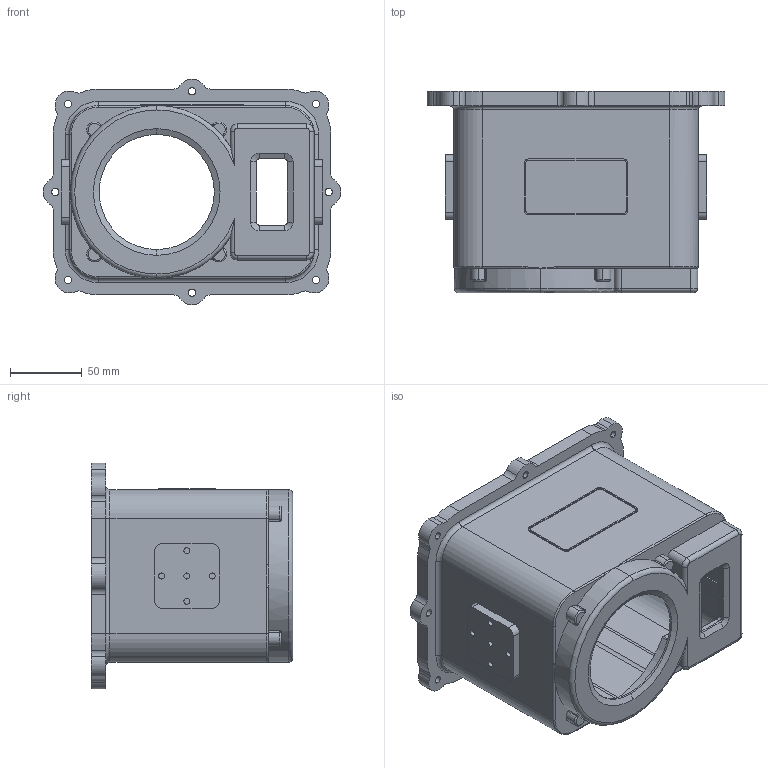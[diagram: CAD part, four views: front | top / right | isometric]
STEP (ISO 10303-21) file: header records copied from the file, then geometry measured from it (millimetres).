
FILE_DESCRIPTION (( 'STEP AP214' ), '1' );
FILE_NAME ('Íâ¿Ç-KBA127L(C)-ºñ¶È3mm.STEP', '2024-03-11T02:58:51', ( '' ), ( '' ), 'SwSTEP 2.0', 'SolidWorks 2020', '' );
FILE_SCHEMA (( 'AUTOMOTIVE_DESIGN' ));
Length unit declared in the file: millimetre
Products named in the file (1): 俋褲-KBA127L(C)-綠僅3mm
Bounding box: 207 x 140 x 157 mm (x, y, z)
Volume: 404665.5 mm3; surface area: 198134.7 mm2
Topology: 1 solids, 1 shells, 350 faces, 919 edges, 576 vertices
Faces by surface type: cylinder 185, plane 103, torus 31, cone 22, bspline 9
Entity records: 11730 total; most frequent: CARTESIAN_POINT 2246, DIRECTION 2001, ORIENTED_EDGE 1798, EDGE_CURVE 899, AXIS2_PLACEMENT_3D 781, VERTEX_POINT 576, VECTOR 439, CIRCLE 439
